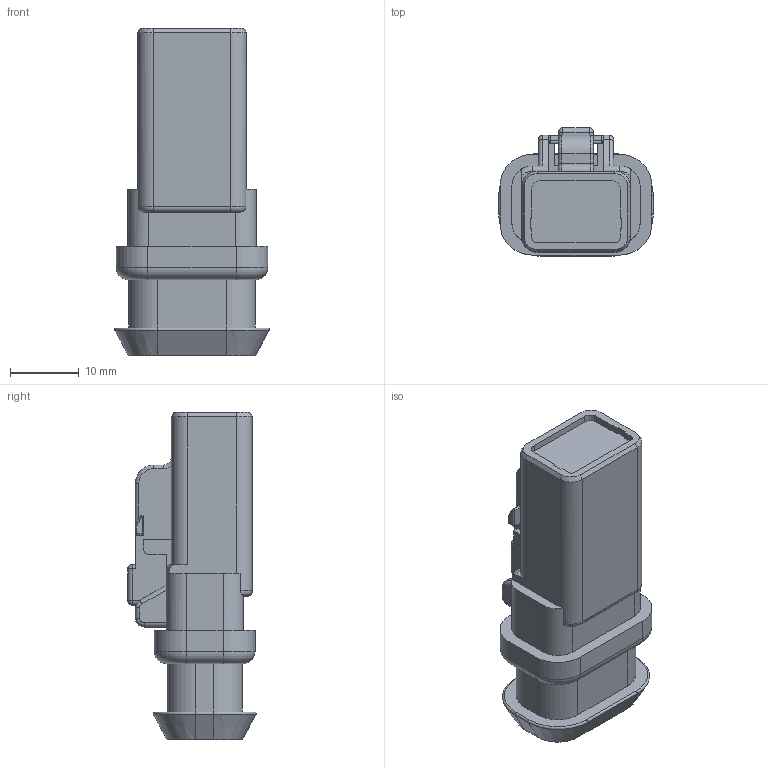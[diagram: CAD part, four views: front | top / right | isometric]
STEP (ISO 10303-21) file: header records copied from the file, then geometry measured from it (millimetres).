
FILE_DESCRIPTION((''),'2;1');
FILE_NAME('C-DTP06-2S-CE09','2013-12-26T',('workeradm'),('Tyco Electronics Ltd.'),'PRO/ENGINEER BY PARAMETRIC TECHNOLOGY CORPORATION, 2013050','PRO/ENGINEER BY PARAMETRIC TECHNOLOGY CORPORATION, 2013050','');
FILE_SCHEMA(('AUTOMOTIVE_DESIGN { 1 0 10303 214 1 1 1 1 }'));
Length unit declared in the file: millimetre
Products named in the file (1): C-DTP06-2S-CE09
Bounding box: 22.43 x 18.62 x 47.42 mm (x, y, z)
Volume: 10063.3 mm3; surface area: 3755.6 mm2
Topology: 1 solids, 1 shells, 237 faces, 602 edges, 376 vertices
Faces by surface type: plane 124, cylinder 75, torus 23, cone 8, sphere 6, bspline 1
Entity records: 7487 total; most frequent: CARTESIAN_POINT 1500, DIRECTION 1234, ORIENTED_EDGE 1204, EDGE_CURVE 602, AXIS2_PLACEMENT_3D 412, VECTOR 410, LINE 410, VERTEX_POINT 376
